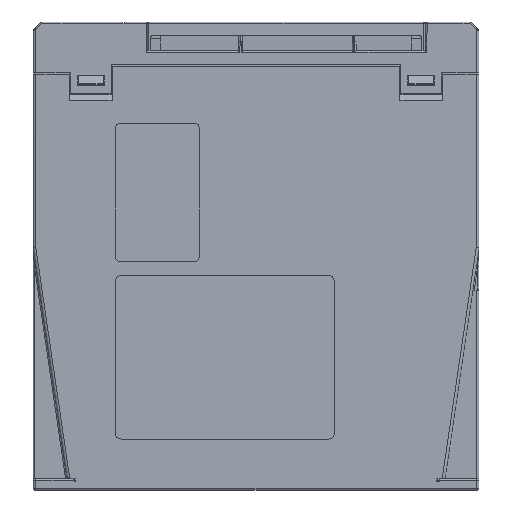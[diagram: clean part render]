
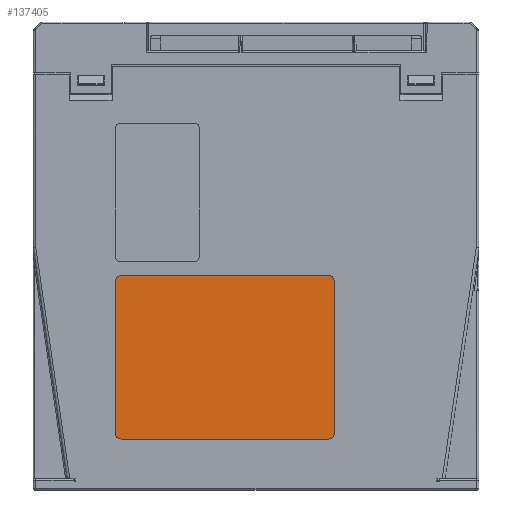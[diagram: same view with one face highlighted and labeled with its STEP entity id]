
A CAD part, left-side view. The second image highlights one B-rep face of the part: STEP entity #137405.
In plain terms, the highlighted planar face has unit normal (-1, 0, 0).
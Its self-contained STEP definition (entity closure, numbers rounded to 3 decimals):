
#137313=CARTESIAN_POINT('',(-24.9,-16.,20.5));
#137314=VERTEX_POINT('',#137313);
#137315=CARTESIAN_POINT('',(-24.9,-18.,18.5));
#137316=VERTEX_POINT('',#137315);
#137317=CARTESIAN_POINT('',(-24.9,-18.,20.5));
#137318=DIRECTION('',(-1.0,0.0,0.0));
#137319=DIRECTION('',(0.0,0.707,-0.707));
#137320=AXIS2_PLACEMENT_3D('',#137317,#137318,#137319);
#137321=CIRCLE('',#137320,2.);
#137322=EDGE_CURVE('',#137314,#137316,#137321,.T.);
#137340=CARTESIAN_POINT('',(-24.9,-31.2,105.6));
#137341=DIRECTION('',(-1.0,0.0,0.0));
#137342=DIRECTION('',(0.0,0.0,1.0));
#137343=AXIS2_PLACEMENT_3D('',#137340,#137341,#137342);
#137344=PLANE('',#137343);
#137345=ORIENTED_EDGE('',*,*,#137322,.T.);
#137346=CARTESIAN_POINT('',(-24.9,-93.4,18.5));
#137347=VERTEX_POINT('',#137346);
#137348=CARTESIAN_POINT('',(-24.9,-18.,18.5));
#137349=DIRECTION('',(0.0,-1.0,0.0));
#137350=VECTOR('',#137349,75.4);
#137351=LINE('',#137348,#137350);
#137352=EDGE_CURVE('',#137316,#137347,#137351,.T.);
#137353=ORIENTED_EDGE('',*,*,#137352,.T.);
#137354=CARTESIAN_POINT('',(-24.9,-95.4,20.5));
#137355=VERTEX_POINT('',#137354);
#137356=CARTESIAN_POINT('',(-24.9,-93.4,20.5));
#137357=DIRECTION('',(-1.,0.0,0.0));
#137358=DIRECTION('',(0.0,-0.707,-0.707));
#137359=AXIS2_PLACEMENT_3D('',#137356,#137357,#137358);
#137360=CIRCLE('',#137359,2.);
#137361=EDGE_CURVE('',#137347,#137355,#137360,.T.);
#137362=ORIENTED_EDGE('',*,*,#137361,.T.);
#137363=CARTESIAN_POINT('',(-24.9,-95.4,75.9));
#137364=VERTEX_POINT('',#137363);
#137365=CARTESIAN_POINT('',(-24.9,-95.4,20.5));
#137366=DIRECTION('',(0.0,0.0,1.0));
#137367=VECTOR('',#137366,55.4);
#137368=LINE('',#137365,#137367);
#137369=EDGE_CURVE('',#137355,#137364,#137368,.T.);
#137370=ORIENTED_EDGE('',*,*,#137369,.T.);
#137371=CARTESIAN_POINT('',(-24.9,-93.4,77.9));
#137372=VERTEX_POINT('',#137371);
#137373=CARTESIAN_POINT('',(-24.9,-93.4,75.9));
#137374=DIRECTION('',(-1.,0.0,0.0));
#137375=DIRECTION('',(0.0,-0.707,0.707));
#137376=AXIS2_PLACEMENT_3D('',#137373,#137374,#137375);
#137377=CIRCLE('',#137376,2.);
#137378=EDGE_CURVE('',#137364,#137372,#137377,.T.);
#137379=ORIENTED_EDGE('',*,*,#137378,.T.);
#137380=CARTESIAN_POINT('',(-24.9,-18.,77.9));
#137381=VERTEX_POINT('',#137380);
#137382=CARTESIAN_POINT('',(-24.9,-93.4,77.9));
#137383=DIRECTION('',(0.0,1.0,0.0));
#137384=VECTOR('',#137383,75.4);
#137385=LINE('',#137382,#137384);
#137386=EDGE_CURVE('',#137372,#137381,#137385,.T.);
#137387=ORIENTED_EDGE('',*,*,#137386,.T.);
#137388=CARTESIAN_POINT('',(-24.9,-16.,75.9));
#137389=VERTEX_POINT('',#137388);
#137390=CARTESIAN_POINT('',(-24.9,-18.,75.9));
#137391=DIRECTION('',(-1.0,0.0,0.0));
#137392=DIRECTION('',(0.0,0.707,0.707));
#137393=AXIS2_PLACEMENT_3D('',#137390,#137391,#137392);
#137394=CIRCLE('',#137393,2.);
#137395=EDGE_CURVE('',#137381,#137389,#137394,.T.);
#137396=ORIENTED_EDGE('',*,*,#137395,.T.);
#137397=CARTESIAN_POINT('',(-24.9,-16.,75.9));
#137398=DIRECTION('',(0.0,0.0,-1.0));
#137399=VECTOR('',#137398,55.4);
#137400=LINE('',#137397,#137399);
#137401=EDGE_CURVE('',#137389,#137314,#137400,.T.);
#137402=ORIENTED_EDGE('',*,*,#137401,.T.);
#137403=EDGE_LOOP('',(#137345,#137353,#137362,#137370,#137379,#137387,#137396,#137402));
#137404=FACE_OUTER_BOUND('',#137403,.T.);
#137405=ADVANCED_FACE('',(#137404),#137344,.T.);
